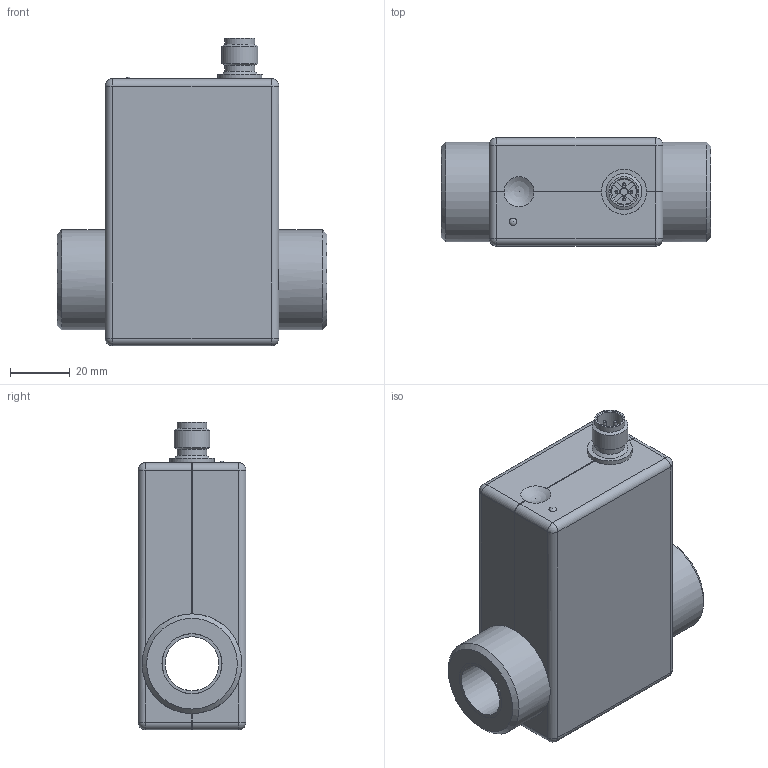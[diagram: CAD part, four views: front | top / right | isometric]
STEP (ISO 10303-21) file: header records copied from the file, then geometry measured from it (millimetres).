
FILE_DESCRIPTION(/* description */ ('VMZ.2 20, G 1 B, Ø18mm'),/* implementation_level */ '2;1');
FILE_NAME(/* name */ 'F:\Tausch\kuelper\3D-Modelle\VMZ205S1PEGY4000.stp',/* time_stamp */ '2021-01-27T11:55:28+01:00',/* author */ ('kuelper'),/* organization */ (''),/* preprocessor_version */ 'ST-DEVELOPER v18',/* originating_system */ 'Autodesk Inventor 2020',/* authorisation */ '');
FILE_SCHEMA (('AUTOMOTIVE_DESIGN { 1 0 10303 214 3 1 1 }'));
Length unit declared in the file: millimetre
Products named in the file (1): MID-0778
Bounding box: 90 x 36 x 102.5 mm (x, y, z)
Volume: 190380.2 mm3; surface area: 36062.7 mm2
Topology: 3 solids, 3 shells, 115 faces, 321 edges, 206 vertices
Faces by surface type: plane 52, cylinder 43, sphere 14, cone 6
Full cylindrical faces by diameter (mm): 1 x4, 2.5 x1, 8.3 x1, 10 x2, 12 x1, 15 x1, 17.98 x1, 18 x2, 20 x2, 20.02 x2, 33.25 x2
Entity records: 3943 total; most frequent: DIRECTION 697, CARTESIAN_POINT 665, ORIENTED_EDGE 614, EDGE_CURVE 307, AXIS2_PLACEMENT_3D 278, VERTEX_POINT 206, CIRCLE 162, LINE 141
